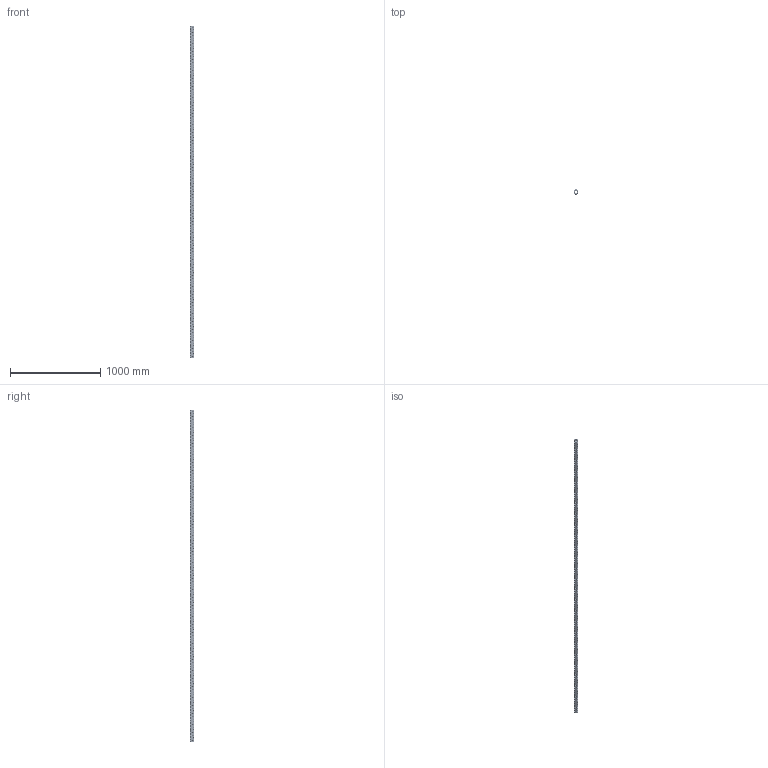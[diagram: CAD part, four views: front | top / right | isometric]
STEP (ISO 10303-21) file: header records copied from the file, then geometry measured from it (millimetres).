
FILE_DESCRIPTION(('CATIA V5 STEP Exchange'),'2;1');
FILE_NAME('U:\Room\唐宝山\EGT002\46-01-010352-01-EGT002-3688.stp','2021-08-25T00:48:22+00:00',('none'),('none'),'CATIA Version 5 Release 21 GA (IN-10)','CATIA V5 STEP AP203','none');
FILE_SCHEMA(('CONFIG_CONTROL_DESIGN'));
Products named in the file (1): 46-01-010352-01-EGT002-3688
Bounding box: 50 x 50 x 3688 mm (x, y, z)
Volume: 2627890.2 mm3; surface area: 1265420.3 mm2
Topology: 1 solids, 1 shells, 5004 faces, 13776 edges, 8528 vertices
Faces by surface type: cone 2952, cylinder 2026, plane 26
Entity records: 212464 total; most frequent: CARTESIAN_POINT 92047, ORIENTED_EDGE 27552, DIRECTION 19138, EDGE_CURVE 13776, AXIS2_PLACEMENT_3D 8839, VERTEX_POINT 8528, EDGE_LOOP 6728, VECTOR 5296
